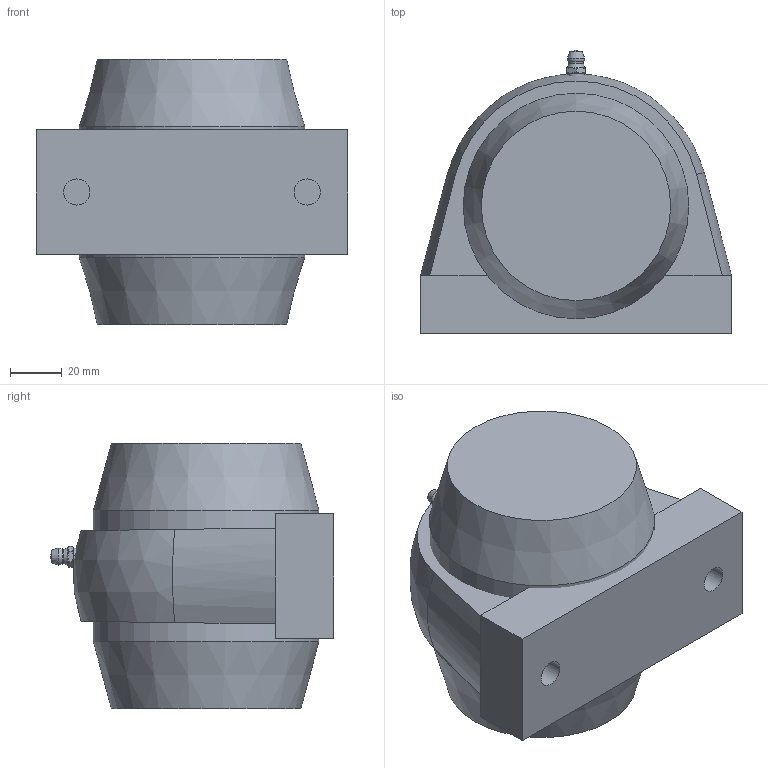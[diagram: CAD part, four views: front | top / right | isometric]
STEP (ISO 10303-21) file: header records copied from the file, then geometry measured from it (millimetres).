
FILE_DESCRIPTION(/* description */ (''),/* implementation_level */ '2;1');
FILE_NAME(/* name */ 'C:\Users\UGijyutu_200702\Desktop\77.プラスチックハウジング\MBTBL200V\MBTBL200VE\MBTBL208VE.stp',/* time_stamp */ '2024-05-28T13:25:53+09:00',/* author */ ('UGijyutu_200702'),/* organization */ (''),/* preprocessor_version */ 'ST-DEVELOPER v18',/* originating_system */ 'Autodesk Inventor 2020',/* authorisation */ '');
FILE_SCHEMA (('AUTOMOTIVE_DESIGN { 1 0 10303 214 3 1 1 }'));
Length unit declared in the file: millimetre
Products named in the file (6): MBTBL208V; TBL208; MB8 V; 1/4-28UNF-2A; 208C; 208E
Assembly tree (5 placements, depth 2):
  MBTBL208V
    TBL208
    MB8 V
    1/4-28UNF-2A
    208C
    208E
Bounding box: 120 x 109.3 x 102.6 mm (x, y, z)
Volume: 335180.6 mm3; surface area: 111574.4 mm2
Topology: 5 solids, 5 shells, 104 faces, 251 edges, 172 vertices
Faces by surface type: plane 54, cylinder 24, cone 19, sphere 5, torus 2
Full cylindrical faces by diameter (mm): 3.2 x1, 5.359 x1, 6 x2, 6.35 x1, 10.106 x2, 40 x2, 45 x1, 53 x1, 56 x1, 83 x2, 83.7 x2, 87 x2
Entity records: 3582 total; most frequent: CARTESIAN_POINT 791, DIRECTION 563, ORIENTED_EDGE 500, EDGE_CURVE 250, AXIS2_PLACEMENT_3D 236, VERTEX_POINT 172, EDGE_LOOP 128, CIRCLE 111
